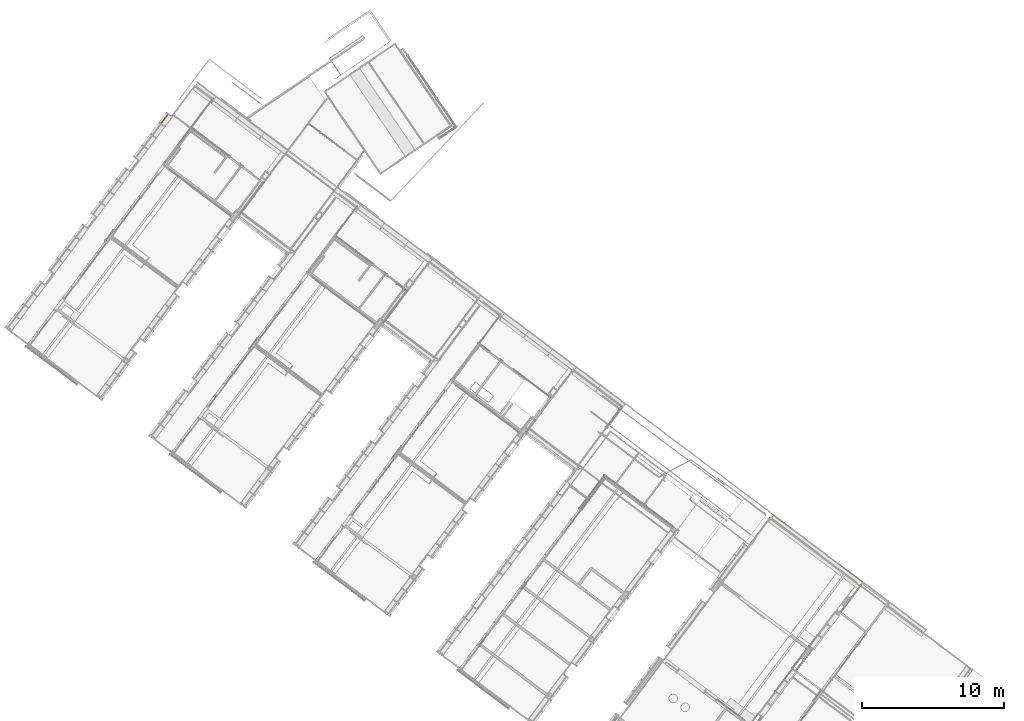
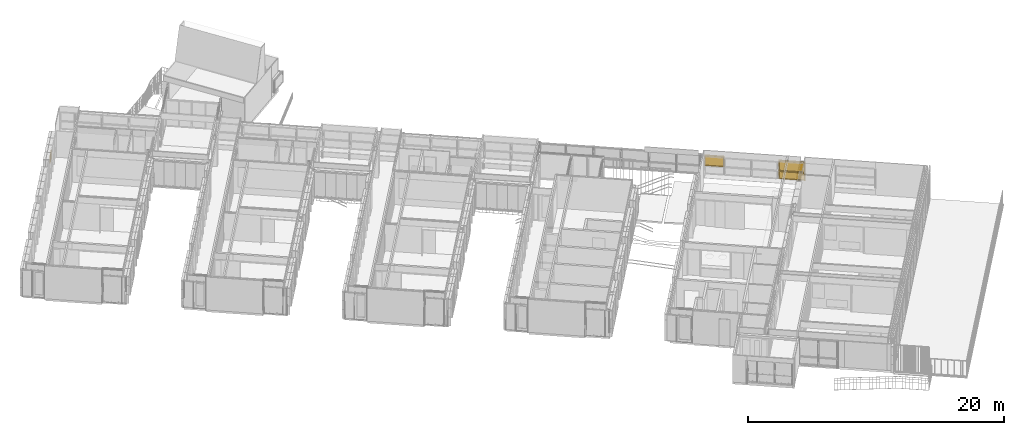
# One storey, part 233 of 243: 4 windows, 2 elements without a shape of their own.
"""IFC2X3 building model written with IfcOpenShell, lengths in metres."""

from ifc_helpers import new_model, entity, si_unit, converted_unit, derived_unit, direction, frame, origin, place, context, subcontext, project, spatial, faceted_brep, source, transform, mapped, material, material_list, type_object, type_shapes, element, aggregate, save


model = new_model("IFC2X3")

# Units and contexts
model_context = context("Model", 3, precision=1e-05, world=origin(), true_north=direction((6.123031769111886e-17, 1.0)))
body_context = subcontext(model_context, "Body", "Model", "MODEL_VIEW")
ifc_project = project(units=[si_unit("LENGTHUNIT", "METRE"), si_unit("AREAUNIT", "SQUARE_METRE"), si_unit("VOLUMEUNIT", "CUBIC_METRE"), converted_unit("PLANEANGLEUNIT", "DEGREE", entity("IfcRatioMeasure", 0.017453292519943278), si_unit("PLANEANGLEUNIT", "RADIAN"), dimensions=[0, 0, 0, 0, 0, 0, 0]), si_unit("MASSUNIT", "GRAM", prefix="KILO"), derived_unit("MASSDENSITYUNIT", [(si_unit("MASSUNIT", "GRAM", prefix="KILO"), 1), (si_unit("LENGTHUNIT", "METRE"), -3)]), derived_unit("IONCONCENTRATIONUNIT", [(si_unit("MASSUNIT", "GRAM", prefix="KILO"), 1), (si_unit("LENGTHUNIT", "METRE"), -3)]), derived_unit("MOMENTOFINERTIAUNIT", [(si_unit("LENGTHUNIT", "METRE"), 4)]), si_unit("TIMEUNIT", "SECOND"), si_unit("FREQUENCYUNIT", "HERTZ"), si_unit("THERMODYNAMICTEMPERATUREUNIT", "DEGREE_CELSIUS"), derived_unit("THERMALTRANSMITTANCEUNIT", [(si_unit("MASSUNIT", "GRAM", prefix="KILO"), 1), (si_unit("THERMODYNAMICTEMPERATUREUNIT", "KELVIN"), -1), (si_unit("TIMEUNIT", "SECOND"), -3)]), derived_unit("THERMALCONDUCTANCEUNIT", [(si_unit("MASSUNIT", "GRAM", prefix="KILO"), 1), (si_unit("THERMODYNAMICTEMPERATUREUNIT", "KELVIN"), -1), (si_unit("TIMEUNIT", "SECOND"), -3), (si_unit("LENGTHUNIT", "METRE"), 1)]), derived_unit("VOLUMETRICFLOWRATEUNIT", [(si_unit("LENGTHUNIT", "METRE"), 3), (si_unit("TIMEUNIT", "SECOND"), -1)]), derived_unit("MASSFLOWRATEUNIT", [(si_unit("MASSUNIT", "GRAM", prefix="KILO"), 1), (si_unit("TIMEUNIT", "SECOND"), -1)]), derived_unit("ROTATIONALFREQUENCYUNIT", [(si_unit("TIMEUNIT", "SECOND"), -1)]), si_unit("ELECTRICCURRENTUNIT", "AMPERE"), si_unit("ELECTRICVOLTAGEUNIT", "VOLT"), si_unit("POWERUNIT", "WATT"), si_unit("FORCEUNIT", "NEWTON", prefix="KILO"), si_unit("ILLUMINANCEUNIT", "LUX"), si_unit("LUMINOUSFLUXUNIT", "LUMEN"), si_unit("LUMINOUSINTENSITYUNIT", "CANDELA"), derived_unit("USERDEFINED", [(si_unit("MASSUNIT", "GRAM", prefix="KILO"), -1), (si_unit("LENGTHUNIT", "METRE"), -2), (si_unit("TIMEUNIT", "SECOND"), 3), (si_unit("LUMINOUSFLUXUNIT", "LUMEN"), 1)]), derived_unit("USERDEFINED", [(si_unit("MASSUNIT", "GRAM", prefix="KILO"), 1), (si_unit("TIMEUNIT", "SECOND"), -3), (si_unit("LENGTHUNIT", "METRE"), 3), (si_unit("ELECTRICCURRENTUNIT", "AMPERE"), -2)]), derived_unit("SOUNDPOWERUNIT", [(si_unit("MASSUNIT", "GRAM", prefix="KILO"), 1), (si_unit("TIMEUNIT", "SECOND"), -3), (si_unit("LENGTHUNIT", "METRE"), 2)]), derived_unit("SOUNDPRESSUREUNIT", [(si_unit("MASSUNIT", "GRAM", prefix="KILO"), 1), (si_unit("LENGTHUNIT", "METRE"), -1), (si_unit("TIMEUNIT", "SECOND"), -2)]), derived_unit("LINEARVELOCITYUNIT", [(si_unit("LENGTHUNIT", "METRE"), 1), (si_unit("TIMEUNIT", "SECOND"), -1)]), si_unit("PRESSUREUNIT", "PASCAL"), derived_unit("USERDEFINED", [(si_unit("MASSUNIT", "GRAM", prefix="KILO"), 1), (si_unit("LENGTHUNIT", "METRE"), -2), (si_unit("TIMEUNIT", "SECOND"), -2)]), derived_unit("LINEARFORCEUNIT", [(si_unit("MASSUNIT", "GRAM", prefix="KILO"), 1), (si_unit("TIMEUNIT", "SECOND"), -2)]), derived_unit("PLANARFORCEUNIT", [(si_unit("MASSUNIT", "GRAM", prefix="KILO"), 1), (si_unit("LENGTHUNIT", "METRE"), -1), (si_unit("TIMEUNIT", "SECOND"), -2)]), derived_unit("SPECIFICHEATCAPACITYUNIT", [(si_unit("THERMODYNAMICTEMPERATUREUNIT", "KELVIN"), -1), (si_unit("LENGTHUNIT", "METRE"), 2), (si_unit("TIMEUNIT", "SECOND"), -2)]), derived_unit("HEATINGVALUEUNIT", [(si_unit("LENGTHUNIT", "METRE"), 2), (si_unit("TIMEUNIT", "SECOND"), -2)]), derived_unit("VAPORPERMEABILITYUNIT", [(si_unit("LENGTHUNIT", "METRE"), -1), (si_unit("TIMEUNIT", "SECOND"), 1)]), derived_unit("DYNAMICVISCOSITYUNIT", [(si_unit("MASSUNIT", "GRAM", prefix="KILO"), 1), (si_unit("TIMEUNIT", "SECOND"), -1), (si_unit("LENGTHUNIT", "METRE"), -1)]), derived_unit("THERMALEXPANSIONCOEFFICIENTUNIT", [(si_unit("THERMODYNAMICTEMPERATUREUNIT", "KELVIN"), -1)]), derived_unit("MODULUSOFELASTICITYUNIT", [(si_unit("MASSUNIT", "GRAM", prefix="KILO"), 1), (si_unit("LENGTHUNIT", "METRE"), -1), (si_unit("TIMEUNIT", "SECOND"), -2)]), derived_unit("ISOTHERMALMOISTURECAPACITYUNIT", [(si_unit("LENGTHUNIT", "METRE"), 3), (si_unit("MASSUNIT", "GRAM", prefix="KILO"), -1)]), derived_unit("MOISTUREDIFFUSIVITYUNIT", [(si_unit("TIMEUNIT", "SECOND"), -1), (si_unit("LENGTHUNIT", "METRE"), 2)])], contexts=[model_context])

# Site, building, storey
site_placement = place(None, frame((0.0, 0.0, 235.0), z_axis=(0.0, 0.0, 1.0), x_axis=(-0.7996477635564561, 0.6004693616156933, 0.0)))
site = spatial("IfcSite", under=ifc_project, at=site_placement, Name="Default", CompositionType="ELEMENT")
building_placement = place(site_placement, origin())
building = spatial("IfcBuilding", under=site, at=building_placement, CompositionType="ELEMENT")
storey_placement = place(building_placement, origin())
storey = spatial("IfcBuildingStorey", under=building, at=storey_placement, Name="P0- Escola", CompositionType="ELEMENT", Elevation=0.0)

# Curtain wall, windows
curtain_wall_type_1 = type_object("IfcCurtainWallType", Name="Muro cortina:MC- EXT- MC6", PredefinedType="NOTDEFINED")
curtain_wall_1_placement = place(storey_placement, origin())
curtain_wall_1 = element("IfcCurtainWall", 1, at=curtain_wall_1_placement, inside=storey, type_object=curtain_wall_type_1, Name="Muro cortina:MC- EXT- MC6", ObjectType="Muro cortina:MC- EXT- MC6")
ifc_material_1 = material(Name="_Vidre")
ifc_material_2 = material(Name="_Alumini- T1- Perfil")
ifc_material_list = material_list([ifc_material_1, ifc_material_2])
window_style_1 = type_object("IfcWindowStyle", Name="MC- Alu- Conjunt vidre fix- 62x60 cm:MC- Alu- Conjunt vidre fix- 62x60 cm", ConstructionType="NOTDEFINED", OperationType="NOTDEFINED", ParameterTakesPrecedence=False, Sizeable=False, material=ifc_material_list)
shared_shape_1 = source(origin(), body_context, "Body", "Brep", [
    faceted_brep([(1.0058710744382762, -0.007600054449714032, 0.048806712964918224), (1.0058710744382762, -0.03160022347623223, 0.048806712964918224), (-1.0058710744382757, -0.03160022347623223, 0.048806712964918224), (-1.005871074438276, -0.007600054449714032, 0.048806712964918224), (1.0058710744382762, -0.007600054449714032, 0.7210000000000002), (-1.0058710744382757, -0.007600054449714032, 0.7210000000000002), (-1.0058710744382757, -0.03160022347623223, 0.7210000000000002), (1.0058710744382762, -0.03160022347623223, 0.7210000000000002)], [[[0, 1, 2, 3]], [[4, 0, 3, 5]], [[5, 3, 2, 6]], [[6, 2, 1, 7]], [[7, 1, 0, 4]], [[4, 5, 6, 7]]]),
    faceted_brep([(1.054677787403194, -0.05999999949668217, 0.7700000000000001), (1.054677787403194, -0.05999999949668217, 0.0), (1.054677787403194, 0.0, 0.0), (1.054677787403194, 0.0, 0.77), (-1.054677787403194, 0.0, 0.7700000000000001), (-1.054677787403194, 0.0, 0.0), (0.991870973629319, 0.0, 0.707193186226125), (-0.991870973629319, 0.0, 0.707193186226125), (-0.991870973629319, 0.0, 0.06280681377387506), (0.991870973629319, 0.0, 0.06280681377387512), (-1.054677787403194, -0.05999999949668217, 0.0), (-1.054677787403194, -0.05999999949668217, 0.7700000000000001), (-0.9918738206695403, -0.05999999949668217, 0.7071960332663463), (0.9918738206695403, -0.05999999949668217, 0.7071960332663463), (0.9918738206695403, -0.05999999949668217, 0.06280396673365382), (-0.9918738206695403, -0.05999999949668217, 0.06280396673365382), (0.9918738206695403, -0.03160022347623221, 0.7071960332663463), (0.9918738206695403, -0.03160022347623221, 0.06280396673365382), (-0.9918738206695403, -0.03160022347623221, 0.0628039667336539), (-0.9918738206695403, -0.03160022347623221, 0.7071960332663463), (-1.005871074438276, -0.03160022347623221, 0.721193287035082), (1.005871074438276, -0.03160022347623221, 0.721193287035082), (1.005871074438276, -0.03160022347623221, 0.048806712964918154), (-1.005871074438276, -0.03160022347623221, 0.04880671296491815), (1.005871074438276, -0.007600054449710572, 0.721193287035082), (1.005871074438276, -0.007600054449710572, 0.04880671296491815), (-1.005871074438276, -0.007600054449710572, 0.048806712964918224), (-1.005871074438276, -0.007600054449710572, 0.721193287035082), (-0.991870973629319, -0.007600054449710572, 0.707193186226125), (0.991870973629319, -0.007600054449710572, 0.707193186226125), (0.991870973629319, -0.007600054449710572, 0.06280681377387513), (-0.991870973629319, -0.007600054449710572, 0.06280681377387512)], [[[0, 1, 2, 3]], [[4, 3, 2, 5], [6, 7, 8, 9]], [[1, 10, 5, 2]], [[0, 11, 10, 1], [12, 13, 14, 15]], [[16, 17, 14, 13]], [[17, 18, 15, 14]], [[16, 19, 18, 17], [20, 21, 22, 23]], [[24, 25, 22, 21]], [[25, 26, 23, 22]], [[24, 27, 26, 25], [28, 29, 30, 31]], [[6, 9, 30, 29]], [[9, 8, 31, 30]], [[10, 11, 4, 5]], [[18, 19, 12, 15]], [[26, 27, 20, 23]], [[8, 7, 28, 31]], [[11, 0, 3, 4]], [[19, 16, 13, 12]], [[27, 24, 21, 20]], [[7, 6, 29, 28]]], outer=[[True], [True, False], [True], [True, False], [True], [True], [False, True], [True], [True], [True, False], [True], [True], [True], [True], [True], [True], [True], [True], [True], [True]]),
])
type_shapes(window_style_1, [shared_shape_1])
window_1_placement = place(curtain_wall_1_placement, frame((16.69146989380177, -42.34019175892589, 0.685), z_axis=(0.0, 0.0, 1.0), x_axis=(-1.0, 0.0, 0.0)))
window_1 = element("IfcWindow", 2, at=window_1_placement, type_object=window_style_1, material=ifc_material_list, Name="MC- Alu- Conjunt vidre fix- 62x60 cm:MC- Alu- Conjunt vidre fix- 62x60 cm", ObjectType="MC- Alu- Conjunt vidre fix- 62x60 cm:MC- Alu- Conjunt vidre fix- 62x60 cm", OverallHeight=0.7700000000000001, OverallWidth=2.109355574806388, context=body_context, shape_type="MappedRepresentation", body=[
    mapped(shared_shape_1, transform((0.0, 0.0, 0.0), scale=1.0)),
])
window_style_2 = type_object("IfcWindowStyle", Name="MC- Alu- Conjunt finestra basculant- 68x68 cm:MC- Alu- Conjunt finestra basculant- 68x68 cm", ConstructionType="NOTDEFINED", OperationType="NOTDEFINED", ParameterTakesPrecedence=False, Sizeable=False, material=ifc_material_list)
shared_shape_2 = source(origin(), body_context, "Body", "Brep", [
    faceted_brep([(1.0025894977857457, -0.03559830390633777, 0.051999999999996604), (-1.002589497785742, -0.03559830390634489, 0.051999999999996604), (-1.0025894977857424, -0.011598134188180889, 0.051999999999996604), (1.0025894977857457, -0.011598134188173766, 0.051999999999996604), (1.0025894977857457, -0.03559830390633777, 0.9953027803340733), (1.0025894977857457, -0.011598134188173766, 0.9953027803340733), (-1.0025894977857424, -0.011598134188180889, 0.9953027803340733), (-1.002589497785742, -0.03559830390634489, 0.9953027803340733)], [[[0, 1, 2, 3]], [[4, 0, 3, 5]], [[5, 3, 2, 6]], [[6, 2, 1, 7]], [[7, 1, 0, 4]], [[4, 5, 6, 7]]]),
    faceted_brep([(-0.9868886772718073, -0.009998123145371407, 0.9796019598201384), (-0.9868886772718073, -0.009998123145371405, 0.06789804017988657), (-0.9868886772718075, -0.007998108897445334, 0.06789804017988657), (-0.9868886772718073, -0.007998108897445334, 0.9796019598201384), (-1.015786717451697, -0.007998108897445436, 1.0085000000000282), (1.0157867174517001, -0.00799810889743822, 1.0085000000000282), (1.0157867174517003, -0.00799810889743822, 0.03899999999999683), (-1.015786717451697, -0.007998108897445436, 0.03899999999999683), (0.9868886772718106, -0.007998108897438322, 0.9796019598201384), (0.9868886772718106, -0.007998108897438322, 0.06789804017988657), (0.9868886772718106, -0.009998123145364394, 0.06789804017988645), (0.9868886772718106, -0.009998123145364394, 0.9796019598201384), (1.0025894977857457, -0.009998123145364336, 0.9953027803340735), (-1.0025894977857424, -0.009998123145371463, 0.9953027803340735), (-1.0025894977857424, -0.009998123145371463, 0.05219721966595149), (1.0025894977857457, -0.009998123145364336, 0.052197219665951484), (-1.0025894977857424, -0.04079986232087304, 0.9953027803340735), (-1.0025894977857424, -0.04079986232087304, 0.052197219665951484), (1.0025894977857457, -0.04079986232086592, 0.052197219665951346), (1.0025894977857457, -0.04079986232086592, 0.9953027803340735), (0.9868886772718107, -0.04079986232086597, 0.9796019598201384), (-0.9868886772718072, -0.04079986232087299, 0.9796019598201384), (-0.9868886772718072, -0.04079986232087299, 0.06789804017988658), (0.9868886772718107, -0.04079986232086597, 0.06789804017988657), (-0.9868886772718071, -0.06800005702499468, 0.9796019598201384), (-0.9868886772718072, -0.06800005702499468, 0.06789804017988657), (0.9868886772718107, -0.06800005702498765, 0.06789804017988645), (0.9868886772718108, -0.06800005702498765, 0.9796019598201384), (1.0332906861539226, -0.0680000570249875, 1.0260039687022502), (-1.0332906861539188, -0.06800005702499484, 1.0260039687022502), (-1.0332906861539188, -0.06800005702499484, 0.021496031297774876), (1.0332906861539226, -0.0680000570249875, 0.02149603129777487), (-1.0332906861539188, -0.06450003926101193, 1.0260039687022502), (-1.0332906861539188, -0.06450003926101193, 0.02149603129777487), (1.0332906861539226, -0.06450003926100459, 0.02149603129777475), (1.0332906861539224, -0.06450003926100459, 1.0260039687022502), (1.0157867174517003, -0.06450003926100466, 1.0085000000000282), (-1.0157867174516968, -0.06450003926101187, 1.0085000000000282), (-1.0157867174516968, -0.06450003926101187, 0.03899999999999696), (1.0157867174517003, -0.06450003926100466, 0.038999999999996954)], [[[0, 1, 2, 3]], [[4, 5, 6, 7], [8, 3, 2, 9]], [[1, 10, 9, 2]], [[0, 11, 10, 1], [12, 13, 14, 15]], [[16, 17, 14, 13]], [[17, 18, 15, 14]], [[16, 19, 18, 17], [20, 21, 22, 23]], [[24, 25, 22, 21]], [[25, 26, 23, 22]], [[24, 27, 26, 25], [28, 29, 30, 31]], [[32, 33, 30, 29]], [[33, 34, 31, 30]], [[32, 35, 34, 33], [36, 37, 38, 39]], [[4, 7, 38, 37]], [[7, 6, 39, 38]], [[10, 11, 8, 9]], [[18, 19, 12, 15]], [[26, 27, 20, 23]], [[34, 35, 28, 31]], [[6, 5, 36, 39]], [[11, 0, 3, 8]], [[19, 16, 13, 12]], [[27, 24, 21, 20]], [[35, 32, 29, 28]], [[5, 4, 37, 36]]], outer=[[True], [True, False], [True], [False, True], [True], [True], [True, False], [True], [True], [False, True], [True], [True], [True, False], [True], [True], [True], [True], [True], [True], [True], [True], [True], [True], [True], [True]]),
    faceted_brep([(0.9918709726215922, 0.0, 0.9846931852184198), (0.991870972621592, 0.0, 0.06280681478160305), (0.991870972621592, -0.0040000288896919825, 0.06280681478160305), (0.9918709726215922, -0.0040000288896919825, 0.98469318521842), (-0.9918709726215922, -0.0040000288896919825, 0.9846931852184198), (-0.9918709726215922, -0.0040000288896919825, 0.06280681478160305), (1.02727759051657, -0.0040000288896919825, 1.0200998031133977), (-1.02727759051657, -0.0040000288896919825, 1.0200998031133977), (-1.02727759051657, -0.0040000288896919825, 0.027400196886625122), (1.02727759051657, -0.0040000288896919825, 0.02740019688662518), (-0.9918709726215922, 0.0, 0.06280681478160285), (-0.991870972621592, 0.0, 0.9846931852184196), (-1.054677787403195, 0.0, 1.0475000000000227), (1.054677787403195, 0.0, 1.0475000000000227), (1.054677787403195, 0.0, 0.0), (-1.054677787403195, 0.0, 0.0), (1.054677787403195, -0.05999999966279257, 1.0475000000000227), (1.054677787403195, -0.05999999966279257, 0.0), (-1.054677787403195, -0.05999999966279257, 0.0), (-1.054677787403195, -0.05999999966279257, 1.0475000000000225), (-1.02727759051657, -0.05999999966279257, 1.0200998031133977), (1.02727759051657, -0.05999999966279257, 1.0200998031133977), (1.02727759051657, -0.05999999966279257, 0.027400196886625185), (-1.02727759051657, -0.05999999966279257, 0.02740019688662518)], [[[0, 1, 2, 3]], [[4, 3, 2, 5], [6, 7, 8, 9]], [[1, 10, 5, 2]], [[0, 11, 10, 1], [12, 13, 14, 15]], [[16, 17, 14, 13]], [[17, 18, 15, 14]], [[16, 19, 18, 17], [20, 21, 22, 23]], [[6, 9, 22, 21]], [[9, 8, 23, 22]], [[10, 11, 4, 5]], [[18, 19, 12, 15]], [[8, 7, 20, 23]], [[11, 0, 3, 4]], [[19, 16, 13, 12]], [[7, 6, 21, 20]]], outer=[[True], [False, True], [True], [False, True], [True], [True], [True, False], [True], [True], [True], [True], [True], [True], [True], [True]]),
])
type_shapes(window_style_2, [shared_shape_2])
window_2_placement = place(curtain_wall_1_placement, frame((16.69146989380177, -42.34019175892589, 1.455), z_axis=(0.0, 0.0, 1.0), x_axis=(-1.0, 0.0, 0.0)))
window_2 = element("IfcWindow", 3, at=window_2_placement, type_object=window_style_2, material=ifc_material_list, Name="MC- Alu- Conjunt finestra basculant- 68x68 cm:MC- Alu- Conjunt finestra basculant- 68x68 cm", ObjectType="MC- Alu- Conjunt finestra basculant- 68x68 cm:MC- Alu- Conjunt finestra basculant- 68x68 cm", OverallHeight=1.0475000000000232, OverallWidth=2.109355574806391, context=body_context, shape_type="MappedRepresentation", body=[
    mapped(shared_shape_2, transform((0.0, 0.0, 0.0), scale=1.0)),
])
window_style_3 = type_object("IfcWindowStyle", Name="MC- Alu- Conjunt finestra basculant- 68x68 cm:MC- Alu- Conjunt finestra basculant- 68x68 cm", ConstructionType="NOTDEFINED", OperationType="NOTDEFINED", ParameterTakesPrecedence=False, Sizeable=False, material=ifc_material_list)
shared_shape_3 = source(origin(), body_context, "Body", "Brep", [
    faceted_brep([(0.7329117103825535, -0.035598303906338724, 0.051999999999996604), (-0.7329117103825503, -0.03559830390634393, 0.051999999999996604), (-0.7329117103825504, -0.01159813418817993, 0.051999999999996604), (0.7329117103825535, -0.011598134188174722, 0.051999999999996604), (0.7329117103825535, -0.035598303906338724, 0.9953027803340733), (0.7329117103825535, -0.011598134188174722, 0.9953027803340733), (-0.7329117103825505, -0.01159813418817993, 0.9953027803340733), (-0.7329117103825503, -0.03559830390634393, 0.9953027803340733)], [[[0, 1, 2, 3]], [[4, 0, 3, 5]], [[5, 3, 2, 6]], [[6, 2, 1, 7]], [[7, 1, 0, 4]], [[4, 5, 6, 7]]]),
    faceted_brep([(-0.7172108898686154, -0.009998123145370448, 0.9796019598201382), (-0.7172108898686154, -0.009998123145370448, 0.06789804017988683), (-0.7172108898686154, -0.007998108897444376, 0.06789804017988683), (-0.7172108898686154, -0.007998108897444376, 0.9796019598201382), (-0.746108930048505, -0.007998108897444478, 1.0085000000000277), (0.746108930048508, -0.007998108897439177, 1.0085000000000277), (0.746108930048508, -0.007998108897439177, 0.03899999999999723), (-0.746108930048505, -0.007998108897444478, 0.03899999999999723), (0.7172108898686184, -0.00799810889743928, 0.9796019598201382), (0.7172108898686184, -0.00799810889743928, 0.06789804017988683), (0.7172108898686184, -0.00999812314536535, 0.06789804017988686), (0.7172108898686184, -0.00999812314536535, 0.9796019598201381), (0.7329117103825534, -0.009998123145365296, 0.9953027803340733), (-0.7329117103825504, -0.009998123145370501, 0.9953027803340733), (-0.7329117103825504, -0.009998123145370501, 0.05219721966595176), (0.7329117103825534, -0.009998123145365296, 0.052197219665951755), (-0.7329117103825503, -0.040799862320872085, 0.9953027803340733), (-0.7329117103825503, -0.04079986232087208, 0.052197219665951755), (0.7329117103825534, -0.040799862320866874, 0.05219721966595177), (0.7329117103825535, -0.040799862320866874, 0.9953027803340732), (0.7172108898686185, -0.040799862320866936, 0.9796019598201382), (-0.7172108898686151, -0.04079986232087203, 0.9796019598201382), (-0.7172108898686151, -0.04079986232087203, 0.06789804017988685), (0.7172108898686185, -0.040799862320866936, 0.06789804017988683), (-0.717210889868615, -0.06800005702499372, 0.9796019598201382), (-0.717210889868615, -0.06800005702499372, 0.06789804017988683), (0.7172108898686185, -0.06800005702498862, 0.06789804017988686), (0.7172108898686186, -0.06800005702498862, 0.9796019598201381), (0.7636128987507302, -0.06800005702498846, 1.02600396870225), (-0.7636128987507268, -0.06800005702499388, 1.02600396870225), (-0.7636128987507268, -0.06800005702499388, 0.021496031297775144), (0.7636128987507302, -0.06800005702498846, 0.02149603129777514), (-0.7636128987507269, -0.06450003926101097, 1.02600396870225), (-0.7636128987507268, -0.06450003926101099, 0.02149603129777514), (0.7636128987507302, -0.06450003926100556, 0.02149603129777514), (0.7636128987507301, -0.06450003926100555, 1.02600396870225), (0.7461089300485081, -0.06450003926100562, 1.0085000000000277), (-0.7461089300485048, -0.06450003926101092, 1.0085000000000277), (-0.7461089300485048, -0.06450003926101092, 0.03899999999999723), (0.7461089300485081, -0.06450003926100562, 0.038999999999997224)], [[[0, 1, 2, 3]], [[4, 5, 6, 7], [8, 3, 2, 9]], [[1, 10, 9, 2]], [[0, 11, 10, 1], [12, 13, 14, 15]], [[16, 17, 14, 13]], [[17, 18, 15, 14]], [[16, 19, 18, 17], [20, 21, 22, 23]], [[24, 25, 22, 21]], [[25, 26, 23, 22]], [[24, 27, 26, 25], [28, 29, 30, 31]], [[32, 33, 30, 29]], [[33, 34, 31, 30]], [[32, 35, 34, 33], [36, 37, 38, 39]], [[4, 7, 38, 37]], [[7, 6, 39, 38]], [[10, 11, 8, 9]], [[18, 19, 12, 15]], [[26, 27, 20, 23]], [[34, 35, 28, 31]], [[6, 5, 36, 39]], [[11, 0, 3, 8]], [[19, 16, 13, 12]], [[27, 24, 21, 20]], [[35, 32, 29, 28]], [[5, 4, 37, 36]]], outer=[[True], [True, False], [True], [False, True], [True], [True], [True, False], [True], [True], [False, True], [True], [True], [True, False], [True], [True], [True], [True], [True], [True], [True], [True], [True], [True], [True], [True]]),
    faceted_brep([(0.7221931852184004, 0.0, 0.9846931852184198), (0.7221931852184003, 0.0, 0.06280681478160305), (0.7221931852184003, -0.0040000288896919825, 0.06280681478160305), (0.7221931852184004, -0.0040000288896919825, 0.9846931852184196), (-0.7221931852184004, -0.0040000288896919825, 0.9846931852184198), (-0.7221931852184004, -0.0040000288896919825, 0.06280681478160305), (0.7575998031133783, -0.0040000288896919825, 1.0200998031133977), (-0.7575998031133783, -0.0040000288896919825, 1.0200998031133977), (-0.7575998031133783, -0.0040000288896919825, 0.027400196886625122), (0.7575998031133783, -0.0040000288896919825, 0.02740019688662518), (-0.7221931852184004, 0.0, 0.06280681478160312), (-0.7221931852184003, 0.0, 0.9846931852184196), (-0.7850000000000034, 0.0, 1.0475000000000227), (0.7850000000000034, 0.0, 1.0475000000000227), (0.7850000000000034, 0.0, 0.0), (-0.7850000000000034, 0.0, 0.0), (0.7850000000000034, -0.05999999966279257, 1.0475000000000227), (0.7850000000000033, -0.05999999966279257, 0.0), (-0.7850000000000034, -0.05999999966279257, 0.0), (-0.7850000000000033, -0.05999999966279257, 1.0475000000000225), (-0.7575998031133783, -0.05999999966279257, 1.0200998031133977), (0.7575998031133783, -0.05999999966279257, 1.0200998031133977), (0.7575998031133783, -0.05999999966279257, 0.027400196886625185), (-0.7575998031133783, -0.05999999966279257, 0.02740019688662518)], [[[0, 1, 2, 3]], [[4, 3, 2, 5], [6, 7, 8, 9]], [[1, 10, 5, 2]], [[0, 11, 10, 1], [12, 13, 14, 15]], [[16, 17, 14, 13]], [[17, 18, 15, 14]], [[16, 19, 18, 17], [20, 21, 22, 23]], [[6, 9, 22, 21]], [[9, 8, 23, 22]], [[10, 11, 4, 5]], [[18, 19, 12, 15]], [[8, 7, 20, 23]], [[11, 0, 3, 4]], [[19, 16, 13, 12]], [[7, 6, 21, 20]]], outer=[[True], [False, True], [True], [False, True], [True], [True], [True, False], [True], [True], [True], [True], [True], [True], [True], [True]]),
])
type_shapes(window_style_3, [shared_shape_3])
window_3_placement = place(curtain_wall_1_placement, frame((22.815147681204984, -42.34019175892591, 1.455), z_axis=(0.0, 0.0, 1.0), x_axis=(-1.0, 0.0, 0.0)))
window_3 = element("IfcWindow", 4, at=window_3_placement, type_object=window_style_3, material=ifc_material_list, Name="MC- Alu- Conjunt finestra basculant- 68x68 cm:MC- Alu- Conjunt finestra basculant- 68x68 cm", ObjectType="MC- Alu- Conjunt finestra basculant- 68x68 cm:MC- Alu- Conjunt finestra basculant- 68x68 cm", OverallHeight=1.0475000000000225, OverallWidth=1.570000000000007, context=body_context, shape_type="MappedRepresentation", body=[
    mapped(shared_shape_3, transform((0.0, 0.0, 0.0), scale=1.0)),
])
aggregate(curtain_wall_1, [window_1, window_2, window_3])

# Curtain wall, window
curtain_wall_type_2 = type_object("IfcCurtainWallType", Name="Muro cortina:MC- EXT- MC5", PredefinedType="NOTDEFINED")
curtain_wall_2_placement = place(storey_placement, origin())
curtain_wall_2 = element("IfcCurtainWall", 5, at=curtain_wall_2_placement, inside=storey, type_object=curtain_wall_type_2, Name="Muro cortina:MC- EXT- MC5", ObjectType="Muro cortina:MC- EXT- MC5")
window_style_4 = type_object("IfcWindowStyle", Name="MC- Alu- Conjunt vidre fix- 62x60 cm:MC- Alu- Conjunt vidre fix- 62x60 cm", ConstructionType="NOTDEFINED", OperationType="NOTDEFINED", ParameterTakesPrecedence=False, Sizeable=False, material=ifc_material_list)
shared_shape_4 = source(origin(), body_context, "Body", "Brep", [
    faceted_brep([(-0.3730682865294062, -0.007600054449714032, 0.048806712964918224), (0.37306828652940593, -0.007600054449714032, 0.048806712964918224), (0.37306828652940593, -0.03160022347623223, 0.048806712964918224), (-0.3730682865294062, -0.03160022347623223, 0.048806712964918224), (-0.3730682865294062, -0.007600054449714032, 0.7387000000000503), (0.37306828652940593, -0.007600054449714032, 0.7387000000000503), (0.37306828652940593, -0.03160022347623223, 0.7387000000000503), (-0.3730682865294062, -0.03160022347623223, 0.7387000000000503)], [[[0, 1, 2, 3]], [[4, 5, 1, 0]], [[5, 6, 2, 1]], [[6, 7, 3, 2]], [[7, 4, 0, 3]], [[4, 7, 6, 5]]]),
    faceted_brep([(-0.4218749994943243, -0.05999999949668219, 0.7877000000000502), (-0.4218749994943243, 0.0, 0.7877000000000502), (-0.4218749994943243, 0.0, 0.0), (-0.4218749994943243, -0.05999999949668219, 0.0), (-0.3590681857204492, 0.0, 0.7248931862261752), (-0.3590681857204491, 0.0, 0.06280681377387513), (0.35906818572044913, 0.0, 0.06280681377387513), (0.35906818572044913, 0.0, 0.7248931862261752), (0.4218749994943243, 0.0, 0.7877000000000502), (0.4218749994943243, 0.0, 0.0), (0.4218749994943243, -0.05999999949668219, 0.0), (0.4218749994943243, -0.05999999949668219, 0.7877000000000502), (0.3590710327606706, -0.05999999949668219, 0.7248960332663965), (0.3590710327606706, -0.05999999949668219, 0.0628039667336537), (-0.3590710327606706, -0.05999999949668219, 0.0628039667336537), (-0.3590710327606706, -0.05999999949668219, 0.7248960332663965), (-0.3590710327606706, -0.03160022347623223, 0.7248960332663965), (-0.35907103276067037, -0.03160022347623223, 0.06280396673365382), (0.3590710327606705, -0.03160022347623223, 0.06280396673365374), (0.3590710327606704, -0.03160022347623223, 0.7248960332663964), (0.3730682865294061, -0.03160022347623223, 0.7388932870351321), (0.3730682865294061, -0.03160022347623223, 0.048806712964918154), (-0.3730682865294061, -0.03160022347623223, 0.04880671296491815), (-0.3730682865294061, -0.03160022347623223, 0.7388932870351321), (-0.3730682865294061, -0.007600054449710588, 0.7388932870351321), (-0.3730682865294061, -0.007600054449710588, 0.04880671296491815), (0.3730682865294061, -0.007600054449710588, 0.048806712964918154), (0.3730682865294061, -0.007600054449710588, 0.7388932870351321), (0.35906818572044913, -0.007600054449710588, 0.7248931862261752), (0.35906818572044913, -0.007600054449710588, 0.06280681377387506), (-0.35906818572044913, -0.007600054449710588, 0.06280681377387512), (-0.35906818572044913, -0.007600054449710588, 0.7248931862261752)], [[[0, 1, 2, 3]], [[4, 5, 6, 7], [8, 9, 2, 1]], [[3, 2, 9, 10]], [[0, 3, 10, 11], [12, 13, 14, 15]], [[16, 15, 14, 17]], [[17, 14, 13, 18]], [[16, 17, 18, 19], [20, 21, 22, 23]], [[24, 23, 22, 25]], [[25, 22, 21, 26]], [[24, 25, 26, 27], [28, 29, 30, 31]], [[4, 31, 30, 5]], [[5, 30, 29, 6]], [[10, 9, 8, 11]], [[18, 13, 12, 19]], [[26, 21, 20, 27]], [[6, 29, 28, 7]], [[11, 8, 1, 0]], [[19, 12, 15, 16]], [[27, 20, 23, 24]], [[7, 28, 31, 4]]], outer=[[True], [False, True], [True], [True, False], [True], [True], [False, True], [True], [True], [True, False], [True], [True], [True], [True], [True], [True], [True], [True], [True], [True]]),
])
type_shapes(window_style_4, [shared_shape_4])
window_4_placement = place(curtain_wall_2_placement, frame((74.74514768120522, -38.85206675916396, 0.03229999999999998), z_axis=(0.0, 0.0, 1.0), x_axis=(0.0, -1.0, 0.0)))
window_4 = element("IfcWindow", 6, at=window_4_placement, type_object=window_style_4, material=ifc_material_list, Name="MC- Alu- Conjunt vidre fix- 62x60 cm:MC- Alu- Conjunt vidre fix- 62x60 cm", ObjectType="MC- Alu- Conjunt vidre fix- 62x60 cm:MC- Alu- Conjunt vidre fix- 62x60 cm", OverallHeight=0.7877000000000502, OverallWidth=0.8437499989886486, context=body_context, shape_type="MappedRepresentation", body=[
    mapped(shared_shape_4, transform((0.0, 0.0, 0.0), scale=1.0)),
])
aggregate(curtain_wall_2, [window_4])

save(model, "model.ifc")
